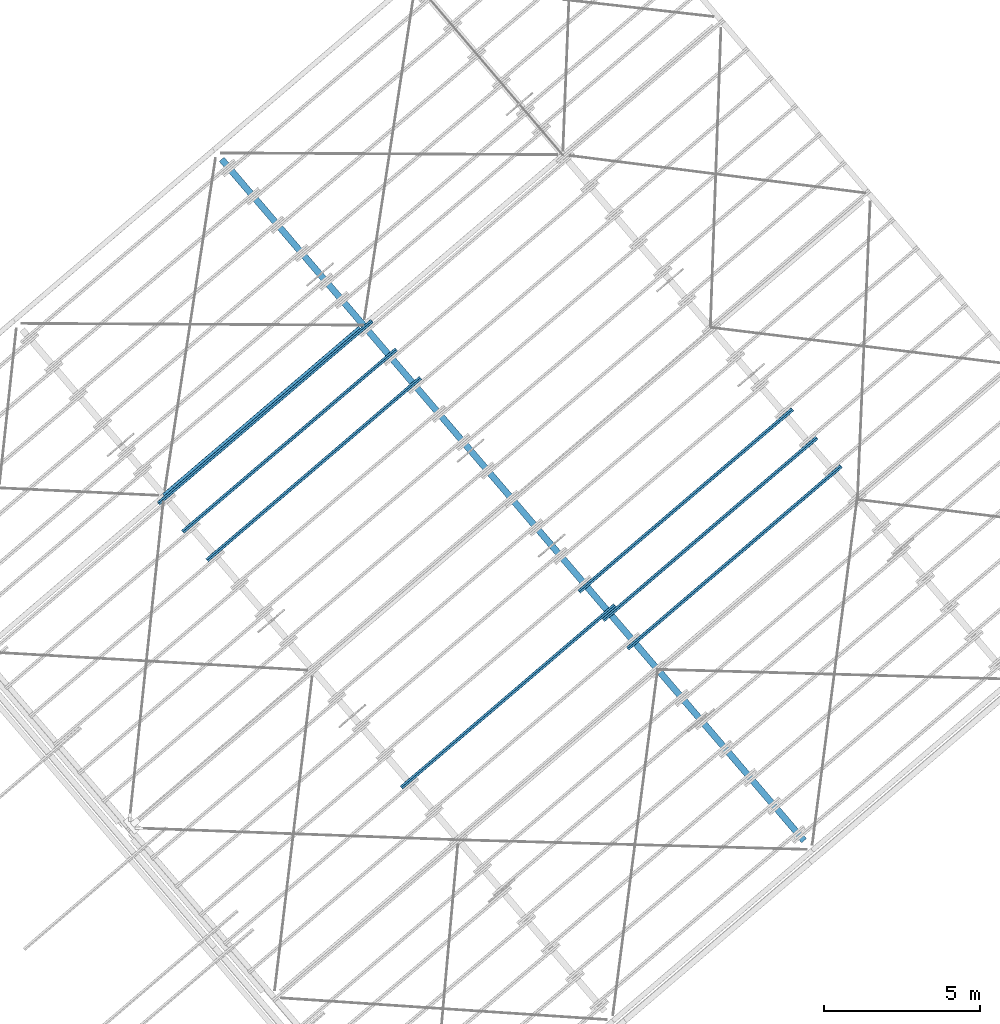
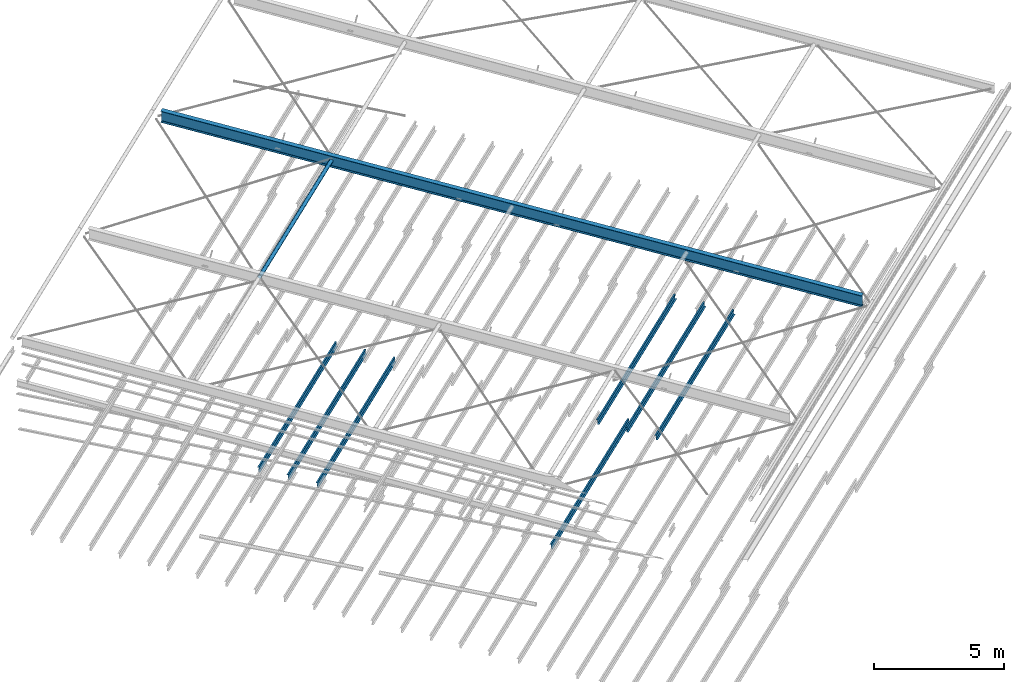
# One storey, part 12 of 25: 8 beams, 1 member, 2 elements without a shape of their own.
"""IFC2X3 building model written with IfcOpenShell, lengths in millimetres."""

from ifc_helpers import new_model, entity, si_unit, converted_unit, derived_unit, direction, frame, frame_2d, origin, origin_2d, origin_2d_with_axis, place, context, subcontext, project, spatial, polyline, circle_curve, parameter, trimmed, segment, composite_curve, hollow_circle, i_section, outline, extrude, clip, halfspace, material, type_object, element, aggregate, save


model = new_model("IFC2X3")

# Units and contexts
model_context = context("Model", 3, precision=0.01, world=origin(), true_north=direction((6.123031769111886e-17, 1.0)))
body_context = subcontext(model_context, "Body", "Model", "MODEL_VIEW")
ifc_project = project(units=[si_unit("LENGTHUNIT", "METRE", prefix="MILLI"), si_unit("AREAUNIT", "SQUARE_METRE"), si_unit("VOLUMEUNIT", "CUBIC_METRE"), converted_unit("PLANEANGLEUNIT", "DEGREE", entity("IfcRatioMeasure", 0.017453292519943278), si_unit("PLANEANGLEUNIT", "RADIAN"), dimensions=[0, 0, 0, 0, 0, 0, 0]), si_unit("MASSUNIT", "GRAM", prefix="KILO"), derived_unit("MASSDENSITYUNIT", [(si_unit("MASSUNIT", "GRAM", prefix="KILO"), 1), (si_unit("LENGTHUNIT", "METRE"), -3)]), derived_unit("MOMENTOFINERTIAUNIT", [(si_unit("LENGTHUNIT", "METRE"), 4)]), si_unit("TIMEUNIT", "SECOND"), si_unit("FREQUENCYUNIT", "HERTZ"), si_unit("THERMODYNAMICTEMPERATUREUNIT", "DEGREE_CELSIUS"), derived_unit("THERMALTRANSMITTANCEUNIT", [(si_unit("MASSUNIT", "GRAM", prefix="KILO"), 1), (si_unit("THERMODYNAMICTEMPERATUREUNIT", "KELVIN"), -1), (si_unit("TIMEUNIT", "SECOND"), -3)]), derived_unit("VOLUMETRICFLOWRATEUNIT", [(si_unit("LENGTHUNIT", "METRE"), 3), (si_unit("TIMEUNIT", "SECOND"), -1)]), derived_unit("MASSFLOWRATEUNIT", [(si_unit("MASSUNIT", "GRAM", prefix="KILO"), 1), (si_unit("TIMEUNIT", "SECOND"), -1)]), derived_unit("ROTATIONALFREQUENCYUNIT", [(si_unit("TIMEUNIT", "SECOND"), -1)]), si_unit("ELECTRICCURRENTUNIT", "AMPERE"), si_unit("ELECTRICVOLTAGEUNIT", "VOLT"), si_unit("POWERUNIT", "WATT"), si_unit("FORCEUNIT", "NEWTON", prefix="KILO"), si_unit("ILLUMINANCEUNIT", "LUX"), si_unit("LUMINOUSFLUXUNIT", "LUMEN"), si_unit("LUMINOUSINTENSITYUNIT", "CANDELA"), derived_unit("USERDEFINED", [(si_unit("MASSUNIT", "GRAM", prefix="KILO"), -1), (si_unit("LENGTHUNIT", "METRE"), -2), (si_unit("TIMEUNIT", "SECOND"), 3), (si_unit("LUMINOUSFLUXUNIT", "LUMEN"), 1)]), derived_unit("SOUNDPOWERUNIT", [(si_unit("MASSUNIT", "GRAM", prefix="KILO"), 1), (si_unit("LENGTHUNIT", "METRE"), 2), (si_unit("TIMEUNIT", "SECOND"), -3)]), derived_unit("LINEARVELOCITYUNIT", [(si_unit("LENGTHUNIT", "METRE"), 1), (si_unit("TIMEUNIT", "SECOND"), -1)]), si_unit("PRESSUREUNIT", "PASCAL"), derived_unit("USERDEFINED", [(si_unit("LENGTHUNIT", "METRE"), -2), (si_unit("MASSUNIT", "GRAM", prefix="KILO"), 1), (si_unit("TIMEUNIT", "SECOND"), -2)]), derived_unit("LINEARFORCEUNIT", [(si_unit("MASSUNIT", "GRAM", prefix="KILO"), 1), (si_unit("LENGTHUNIT", "METRE"), 1), (si_unit("TIMEUNIT", "SECOND"), -2), (si_unit("LENGTHUNIT", "METRE"), -1)]), derived_unit("PLANARFORCEUNIT", [(si_unit("MASSUNIT", "GRAM", prefix="KILO"), 1), (si_unit("LENGTHUNIT", "METRE"), 1), (si_unit("TIMEUNIT", "SECOND"), -2), (si_unit("LENGTHUNIT", "METRE"), -2)])], contexts=[model_context])

# Site, building, storey
site_placement = place(None, frame((962.4174930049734, -6014.433753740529, 0.0), z_axis=(0.0, 0.0, 1.0), x_axis=(0.7601792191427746, 0.649713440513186, 0.0)))
site = spatial("IfcSite", under=ifc_project, at=site_placement, Name="Default", CompositionType="ELEMENT")
building_placement = place(site_placement, origin())
building = spatial("IfcBuilding", under=site, at=building_placement, CompositionType="ELEMENT")
storey_placement = place(building_placement, frame((0.0, 0.0, 9200.0)))
storey = spatial("IfcBuildingStorey", under=building, at=storey_placement, Name="TOP OF CEILING", CompositionType="ELEMENT", Elevation=9200.000000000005)

# Beam
ifc_material_1 = material(Name="Metal - Steel - 300 MPa")
beam_type_1 = type_object("IfcBeamType", Name="ADSK_AU_CHS-Circular Hollow Sections (AS 1163_C350):168.3x6.4CHS", PredefinedType="NOTDEFINED")
beam_1_placement = place(storey_placement, frame((170738.96020471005, -3867.5905821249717, 3583.7999999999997), z_axis=(0.0, 0.0, 1.0), x_axis=(-1.0, 0.0, 0.0)))
element("IfcBeam", 1, at=beam_1_placement, inside=storey, type_object=beam_type_1, material=ifc_material_1, Name="ADSK_AU_CHS-Circular Hollow Sections (AS 1163_C350):168.3x6.4CHS", ObjectType="ADSK_AU_CHS-Circular Hollow Sections (AS 1163_C350):168.3x6.4CHS", context=body_context, shape_type="SweptSolid", body=[
    extrude(hollow_circle(Radius=84.15000000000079, WallThickness=6.4000000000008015, at=origin_2d_with_axis()), frame((134.30000000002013, 0.0, -84.15000000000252), z_axis=(1.0, 0.0, 0.0), x_axis=(0.0, 1.0, 0.0)), (0.0, 0.0, 1.0), 8265.7),
])

# Assembly, beams
assembly_1_placement = place(storey_placement, origin())
assembly_1 = element("IfcElementAssembly", 2, at=assembly_1_placement, inside=storey, Name="Structural Beam System:Structural Beam System 1", ObjectType="Structural Beam System:Structural Beam System 1", AssemblyPlace="NOTDEFINED", PredefinedType="BEAM_GRID")
ifc_material_2 = material(Name="Metal - Steel - 345 MPa")
beam_type_2 = type_object("IfcBeamType", Name="ADSK_AU_Light Gauge-Zeds:Z20015", PredefinedType="NOTDEFINED")
beam_2_placement = place(building_placement, frame((171038.96020471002, -3938.4404572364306, 3914.6058039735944), z_axis=(0.0, 0.0, 1.0), x_axis=(-1.0, 0.0, 0.0)))
beam_2 = element("IfcBeam", 3, at=beam_2_placement, type_object=beam_type_2, material=ifc_material_2, Name="ADSK_AU_Light Gauge-Zeds:Z20015", ObjectType="ADSK_AU_Light Gauge-Zeds:Z20015", context=body_context, shape_type="SweptSolid", body=[
    extrude(outline(composite_curve([segment(polyline([(100.0, 1.0), (100.0, -69.0)]), True, "CONTINUOUS"), segment(trimmed(circle_curve(frame_2d((98.0, -69.0), x_axis=(0.0, -1.0)), 2.000000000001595), [parameter(0.0)], [parameter(89.99999999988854)], True, "PARAMETER"), False, "CONTINUOUS"), segment(polyline([(98.0, -71.0), (81.49999999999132, -71.0)]), True, "CONTINUOUS"), segment(polyline([(81.49999999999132, -71.0), (81.49999999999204, -72.50000000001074)]), True, "CONTINUOUS"), segment(polyline([(81.4999999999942, -72.5000000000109), (98.0, -72.50000000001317)]), True, "CONTINUOUS"), segment(trimmed(circle_curve(frame_2d((98.0, -69.0), x_axis=(1.0, 0.0)), 3.500000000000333), [parameter(270.0000000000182)], [parameter(0.0)], True, "PARAMETER"), True, "CONTINUOUS"), segment(polyline([(101.49999999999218, -69.0), (101.5000000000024, 1.0)]), True, "CONTINUOUS"), segment(trimmed(circle_curve(frame_2d((98.0, 1.0), x_axis=(0.0, 1.0)), 3.500000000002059), [parameter(270.0000000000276)], [parameter(0.0)], True, "PARAMETER"), True, "CONTINUOUS"), segment(polyline([(98.0, 4.499999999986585), (-98.0, 4.500000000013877)]), True, "CONTINUOUS"), segment(trimmed(circle_curve(frame_2d((-98.0, 6.500000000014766), x_axis=(-1.0, 0.0)), 2.0000000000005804), [parameter(0.0)], [parameter(89.99999999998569)], True, "PARAMETER"), False, "CONTINUOUS"), segment(polyline([(-100.0, 6.500000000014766), (-100.0, 64.0)]), True, "CONTINUOUS"), segment(trimmed(circle_curve(frame_2d((-98.0, 64.0), x_axis=(0.0, 1.0)), 2.000000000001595), [parameter(0.0)], [parameter(89.99999999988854)], True, "PARAMETER"), False, "CONTINUOUS"), segment(polyline([(-98.0, 66.0), (-81.49999999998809, 66.0)]), True, "CONTINUOUS"), segment(polyline([(-81.49999999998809, 66.0), (-81.4999999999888, 67.50000000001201)]), True, "CONTINUOUS"), segment(polyline([(-81.49999999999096, 67.50000000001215), (-98.0, 67.50000000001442)]), True, "CONTINUOUS"), segment(trimmed(circle_curve(frame_2d((-98.0, 64.0), x_axis=(-1.0, 0.0)), 3.5000000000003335), [parameter(270.0000000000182)], [parameter(0.0)], True, "PARAMETER"), True, "CONTINUOUS"), segment(polyline([(-101.49999999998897, 64.0), (-101.49999999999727, 6.500000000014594)]), True, "CONTINUOUS"), segment(trimmed(circle_curve(frame_2d((-98.0, 6.500000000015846), x_axis=(0.0, -1.0)), 3.5000000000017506), [parameter(270.0000000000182)], [parameter(0.0)], True, "PARAMETER"), True, "CONTINUOUS"), segment(polyline([(-98.0, 3.0), (98.0, 3.0)]), True, "CONTINUOUS"), segment(trimmed(circle_curve(frame_2d((98.0, 1.0), x_axis=(1.0, 0.0)), 2.0000000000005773), [parameter(0.0)], [parameter(89.99999999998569)], True, "PARAMETER"), False, "CONTINUOUS")], self_intersect=False)), frame((0.20000000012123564, -2.591243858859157, -101.56665523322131), z_axis=(-1.0, 0.0, 0.0), x_axis=(0.0, -0.06975647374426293, -0.9975640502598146)), (0.0, 0.0, -1.0), 9000.000000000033),
])
beam_3_placement = place(building_placement, frame((171038.96020471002, -5135.51731754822, 3830.8980354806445), z_axis=(0.0, 0.0, 1.0), x_axis=(-1.0, 0.0, 0.0)))
beam_3 = element("IfcBeam", 4, at=beam_3_placement, type_object=beam_type_2, material=ifc_material_2, Name="ADSK_AU_Light Gauge-Zeds:Z20015", ObjectType="ADSK_AU_Light Gauge-Zeds:Z20015", context=body_context, shape_type="SweptSolid", body=[
    extrude(outline(composite_curve([segment(polyline([(100.0, 1.0), (100.0, -69.0)]), True, "CONTINUOUS"), segment(trimmed(circle_curve(frame_2d((98.0, -69.0), x_axis=(0.0, -1.0)), 2.000000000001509), [parameter(0.0)], [parameter(89.99999999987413)], True, "PARAMETER"), False, "CONTINUOUS"), segment(polyline([(98.0, -71.0), (81.49999999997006, -71.0)]), True, "CONTINUOUS"), segment(polyline([(81.49999999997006, -71.0), (81.49999999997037, -72.50000000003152)]), True, "CONTINUOUS"), segment(polyline([(81.49999999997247, -72.50000000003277), (98.0, -72.50000000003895)]), True, "CONTINUOUS"), segment(trimmed(circle_curve(frame_2d((98.0, -69.0), x_axis=(1.0, 0.0)), 3.5000000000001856), [parameter(270.0000000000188)], [parameter(0.0)], True, "PARAMETER"), True, "CONTINUOUS"), segment(polyline([(101.49999999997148, -69.0), (101.50000000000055, 1.0)]), True, "CONTINUOUS"), segment(trimmed(circle_curve(frame_2d((98.0, 1.0), x_axis=(0.0, 1.0)), 3.5000000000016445), [parameter(269.9999999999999)], [parameter(0.0)], True, "PARAMETER"), True, "CONTINUOUS"), segment(polyline([(98.0, 4.499999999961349), (-98.0, 4.500000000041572)]), True, "CONTINUOUS"), segment(trimmed(circle_curve(frame_2d((-98.0, 6.500000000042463), x_axis=(-1.0, 0.0)), 2.000000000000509), [parameter(0.0)], [parameter(89.99999999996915)], True, "PARAMETER"), False, "CONTINUOUS"), segment(polyline([(-100.0, 6.500000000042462), (-100.0, 64.0)]), True, "CONTINUOUS"), segment(trimmed(circle_curve(frame_2d((-98.0, 64.0), x_axis=(0.0, 1.0)), 2.000000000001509), [parameter(0.0)], [parameter(89.99999999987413)], True, "PARAMETER"), False, "CONTINUOUS"), segment(polyline([(-98.0, 66.0), (-81.49999999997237, 66.0)]), True, "CONTINUOUS"), segment(polyline([(-81.49999999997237, 66.0), (-81.4999999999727, 67.5000000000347)]), True, "CONTINUOUS"), segment(polyline([(-81.49999999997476, 67.50000000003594), (-98.0, 67.50000000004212)]), True, "CONTINUOUS"), segment(trimmed(circle_curve(frame_2d((-98.0, 64.0), x_axis=(-1.0, 0.0)), 3.5000000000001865), [parameter(270.0000000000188)], [parameter(0.0)], True, "PARAMETER"), True, "CONTINUOUS"), segment(polyline([(-101.49999999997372, 64.0), (-101.4999999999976, 6.500000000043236)]), True, "CONTINUOUS"), segment(trimmed(circle_curve(frame_2d((-98.0, 6.500000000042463), x_axis=(0.0, -1.0)), 3.500000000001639), [parameter(269.9999999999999)], [parameter(0.0)], True, "PARAMETER"), True, "CONTINUOUS"), segment(polyline([(-98.0, 3.0), (98.0, 3.0)]), True, "CONTINUOUS"), segment(trimmed(circle_curve(frame_2d((98.0, 1.0), x_axis=(1.0, 0.0)), 2.000000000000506), [parameter(0.0)], [parameter(89.99999999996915)], True, "PARAMETER"), False, "CONTINUOUS")], self_intersect=False)), frame((0.20000000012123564, -2.5912438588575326, -101.56665523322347), z_axis=(-1.0, 0.0, 0.0), x_axis=(0.0, -0.06975647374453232, -0.9975640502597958)), (0.0, 0.0, -1.0), 9000.000000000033),
])
beam_4_placement = place(building_placement, frame((171038.96020471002, -6332.594177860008, 3747.1902669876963), z_axis=(0.0, 0.0, 1.0), x_axis=(-1.0, 0.0, 0.0)))
beam_4 = element("IfcBeam", 5, at=beam_4_placement, type_object=beam_type_2, material=ifc_material_2, Name="ADSK_AU_Light Gauge-Zeds:Z20015", ObjectType="ADSK_AU_Light Gauge-Zeds:Z20015", context=body_context, shape_type="SweptSolid", body=[
    extrude(outline(composite_curve([segment(polyline([(100.0, 1.0), (100.0, -69.0)]), True, "CONTINUOUS"), segment(trimmed(circle_curve(frame_2d((98.0, -69.0), x_axis=(0.0, -1.0)), 2.000000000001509), [parameter(0.0)], [parameter(89.99999999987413)], True, "PARAMETER"), False, "CONTINUOUS"), segment(polyline([(98.0, -71.0), (81.49999999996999, -71.0)]), True, "CONTINUOUS"), segment(polyline([(81.49999999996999, -71.0), (81.49999999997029, -72.5000000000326)]), True, "CONTINUOUS"), segment(polyline([(81.4999999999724, -72.50000000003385), (98.0, -72.50000000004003)]), True, "CONTINUOUS"), segment(trimmed(circle_curve(frame_2d((98.0, -69.0), x_axis=(1.0, 0.0)), 3.5000000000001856), [parameter(270.0000000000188)], [parameter(0.0)], True, "PARAMETER"), True, "CONTINUOUS"), segment(polyline([(101.49999999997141, -69.0), (101.50000000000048, 1.0)]), True, "CONTINUOUS"), segment(trimmed(circle_curve(frame_2d((98.0, 1.0), x_axis=(0.0, 1.0)), 3.5000000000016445), [parameter(269.9999999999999)], [parameter(0.0)], True, "PARAMETER"), True, "CONTINUOUS"), segment(polyline([(98.0, 4.499999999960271), (-98.0, 4.500000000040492)]), True, "CONTINUOUS"), segment(trimmed(circle_curve(frame_2d((-98.0, 6.500000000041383), x_axis=(-1.0, 0.0)), 2.000000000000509), [parameter(0.0)], [parameter(89.99999999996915)], True, "PARAMETER"), False, "CONTINUOUS"), segment(polyline([(-100.0, 6.500000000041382), (-100.0, 64.0)]), True, "CONTINUOUS"), segment(trimmed(circle_curve(frame_2d((-98.0, 64.0), x_axis=(0.0, 1.0)), 2.000000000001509), [parameter(0.0)], [parameter(89.99999999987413)], True, "PARAMETER"), False, "CONTINUOUS"), segment(polyline([(-98.0, 66.0), (-81.49999999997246, 66.0)]), True, "CONTINUOUS"), segment(polyline([(-81.49999999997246, 66.0), (-81.49999999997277, 67.50000000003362)]), True, "CONTINUOUS"), segment(polyline([(-81.49999999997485, 67.50000000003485), (-98.0, 67.50000000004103)]), True, "CONTINUOUS"), segment(trimmed(circle_curve(frame_2d((-98.0, 64.0), x_axis=(-1.0, 0.0)), 3.5000000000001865), [parameter(270.0000000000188)], [parameter(0.0)], True, "PARAMETER"), True, "CONTINUOUS"), segment(polyline([(-101.4999999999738, 64.0), (-101.49999999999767, 6.500000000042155)]), True, "CONTINUOUS"), segment(trimmed(circle_curve(frame_2d((-98.0, 6.500000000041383), x_axis=(0.0, -1.0)), 3.500000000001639), [parameter(269.9999999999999)], [parameter(0.0)], True, "PARAMETER"), True, "CONTINUOUS"), segment(polyline([(-98.0, 3.0), (98.0, 3.0)]), True, "CONTINUOUS"), segment(trimmed(circle_curve(frame_2d((98.0, 1.0), x_axis=(1.0, 0.0)), 2.000000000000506), [parameter(0.0)], [parameter(89.99999999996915)], True, "PARAMETER"), False, "CONTINUOUS")], self_intersect=False)), frame((0.20000000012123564, -2.5912438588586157, -101.56665523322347), z_axis=(-1.0, 0.0, 0.0), x_axis=(0.0, -0.06975647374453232, -0.9975640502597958)), (0.0, 0.0, -1.0), 9000.000000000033),
])
beam_5_placement = place(building_placement, frame((171038.96020471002, -15909.209060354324, 3077.5281190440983), z_axis=(0.0, 0.0, 1.0), x_axis=(-1.0, 0.0, 0.0)))
beam_5 = element("IfcBeam", 6, at=beam_5_placement, type_object=beam_type_2, material=ifc_material_2, Name="ADSK_AU_Light Gauge-Zeds:Z20015", ObjectType="ADSK_AU_Light Gauge-Zeds:Z20015", context=body_context, shape_type="SweptSolid", body=[
    extrude(outline(composite_curve([segment(polyline([(100.0, 1.0), (100.0, -69.0)]), True, "CONTINUOUS"), segment(trimmed(circle_curve(frame_2d((98.0, -69.0), x_axis=(0.0, -1.0)), 2.000000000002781), [parameter(0.0)], [parameter(89.99999999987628)], True, "PARAMETER"), False, "CONTINUOUS"), segment(polyline([(98.0, -71.0), (81.4999999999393, -71.0)]), True, "CONTINUOUS"), segment(polyline([(81.4999999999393, -71.0), (81.49999999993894, -72.50000000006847)]), True, "CONTINUOUS"), segment(polyline([(81.49999999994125, -72.50000000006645), (98.0, -72.50000000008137)]), True, "CONTINUOUS"), segment(trimmed(circle_curve(frame_2d((98.0, -69.0), x_axis=(1.0, 0.0)), 3.5000000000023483), [parameter(270.00000000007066)], [parameter(0.0)], True, "PARAMETER"), True, "CONTINUOUS"), segment(polyline([(101.49999999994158, -69.0), (101.50000000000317, 1.0)]), True, "CONTINUOUS"), segment(trimmed(circle_curve(frame_2d((98.0, 1.0), x_axis=(0.0, 1.0)), 3.500000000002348), [parameter(270.00000000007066)], [parameter(0.0)], True, "PARAMETER"), True, "CONTINUOUS"), segment(polyline([(98.0, 4.499999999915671), (-98.0, 4.500000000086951)]), True, "CONTINUOUS"), segment(trimmed(circle_curve(frame_2d((-98.0, 6.500000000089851), x_axis=(-1.0, 0.0)), 2.0000000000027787), [parameter(0.0)], [parameter(89.99999999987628)], True, "PARAMETER"), False, "CONTINUOUS"), segment(polyline([(-100.0, 6.500000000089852), (-100.0, 64.0)]), True, "CONTINUOUS"), segment(trimmed(circle_curve(frame_2d((-98.0, 64.0), x_axis=(0.0, 1.0)), 2.000000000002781), [parameter(0.0)], [parameter(89.99999999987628)], True, "PARAMETER"), False, "CONTINUOUS"), segment(polyline([(-98.0, 66.0), (-81.49999999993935, 66.0)]), True, "CONTINUOUS"), segment(polyline([(-81.49999999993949, 66.0), (-81.49999999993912, 67.50000000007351)]), True, "CONTINUOUS"), segment(polyline([(-81.49999999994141, 67.50000000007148), (-98.0, 67.50000000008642)]), True, "CONTINUOUS"), segment(trimmed(circle_curve(frame_2d((-98.0, 64.0), x_axis=(-1.0, 0.0)), 3.500000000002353), [parameter(270.00000000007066)], [parameter(0.0)], True, "PARAMETER"), True, "CONTINUOUS"), segment(polyline([(-101.49999999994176, 64.0), (-101.49999999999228, 6.500000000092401)]), True, "CONTINUOUS"), segment(trimmed(circle_curve(frame_2d((-98.0, 6.500000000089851), x_axis=(0.0, -1.0)), 3.5000000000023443), [parameter(270.00000000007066)], [parameter(0.0)], True, "PARAMETER"), True, "CONTINUOUS"), segment(polyline([(-98.0, 3.0), (98.0, 3.0)]), True, "CONTINUOUS"), segment(trimmed(circle_curve(frame_2d((98.0, 1.0), x_axis=(1.0, 0.0)), 2.000000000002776), [parameter(0.0)], [parameter(89.99999999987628)], True, "PARAMETER"), False, "CONTINUOUS")], self_intersect=False)), frame((0.20000000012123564, -2.59124385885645, -101.56665523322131), z_axis=(-1.0, 0.0, 0.0), x_axis=(0.0, -0.06975647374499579, -0.9975640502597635)), (0.0, 0.0, -1.0), 9000.000000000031),
])
aggregate(assembly_1, [beam_2, beam_3, beam_4, beam_5])

assembly_2_placement = place(storey_placement, origin())
assembly_2 = element("IfcElementAssembly", 7, at=assembly_2_placement, inside=storey, Name="Structural Beam System:Structural Beam System 1", ObjectType="Structural Beam System:Structural Beam System 1", AssemblyPlace="NOTDEFINED", PredefinedType="BEAM_GRID")
beam_6_placement = place(building_placement, frame((179438.96020471, -14840.317238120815, 3152.2723164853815), z_axis=(0.0, 0.0, 1.0), x_axis=(-1.0, 0.0, 0.0)))
beam_6 = element("IfcBeam", 8, at=beam_6_placement, type_object=beam_type_2, material=ifc_material_2, Name="ADSK_AU_Light Gauge-Zeds:Z20015", ObjectType="ADSK_AU_Light Gauge-Zeds:Z20015", context=body_context, shape_type="SweptSolid", body=[
    extrude(outline(composite_curve([segment(polyline([(100.0, 1.0), (100.0, -69.0)]), True, "CONTINUOUS"), segment(trimmed(circle_curve(frame_2d((98.0, -69.0), x_axis=(0.0, -1.0)), 2.000000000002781), [parameter(0.0)], [parameter(89.99999999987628)], True, "PARAMETER"), False, "CONTINUOUS"), segment(polyline([(98.0, -71.0), (81.49999999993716, -71.0)]), True, "CONTINUOUS"), segment(polyline([(81.49999999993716, -71.0), (81.49999999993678, -72.50000000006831)]), True, "CONTINUOUS"), segment(polyline([(81.4999999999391, -72.50000000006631), (98.0, -72.50000000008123)]), True, "CONTINUOUS"), segment(trimmed(circle_curve(frame_2d((98.0, -69.0), x_axis=(1.0, 0.0)), 3.5000000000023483), [parameter(270.00000000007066)], [parameter(0.0)], True, "PARAMETER"), True, "CONTINUOUS"), segment(polyline([(101.49999999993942, -69.0), (101.50000000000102, 1.0)]), True, "CONTINUOUS"), segment(trimmed(circle_curve(frame_2d((98.0, 1.0), x_axis=(0.0, 1.0)), 3.500000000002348), [parameter(270.00000000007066)], [parameter(0.0)], True, "PARAMETER"), True, "CONTINUOUS"), segment(polyline([(98.0, 4.499999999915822), (-98.0, 4.500000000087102)]), True, "CONTINUOUS"), segment(trimmed(circle_curve(frame_2d((-98.0, 6.500000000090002), x_axis=(-1.0, 0.0)), 2.0000000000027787), [parameter(0.0)], [parameter(89.99999999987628)], True, "PARAMETER"), False, "CONTINUOUS"), segment(polyline([(-100.0, 6.500000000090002), (-100.0, 64.0)]), True, "CONTINUOUS"), segment(trimmed(circle_curve(frame_2d((-98.0, 64.0), x_axis=(0.0, 1.0)), 2.000000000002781), [parameter(0.0)], [parameter(89.99999999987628)], True, "PARAMETER"), False, "CONTINUOUS"), segment(polyline([(-98.0, 66.0), (-81.49999999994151, 66.0)]), True, "CONTINUOUS"), segment(polyline([(-81.49999999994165, 66.0), (-81.49999999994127, 67.50000000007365)]), True, "CONTINUOUS"), segment(polyline([(-81.49999999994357, 67.50000000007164), (-98.0, 67.50000000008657)]), True, "CONTINUOUS"), segment(trimmed(circle_curve(frame_2d((-98.0, 64.0), x_axis=(-1.0, 0.0)), 3.500000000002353), [parameter(270.00000000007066)], [parameter(0.0)], True, "PARAMETER"), True, "CONTINUOUS"), segment(polyline([(-101.49999999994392, 64.0), (-101.49999999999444, 6.500000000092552)]), True, "CONTINUOUS"), segment(trimmed(circle_curve(frame_2d((-98.0, 6.500000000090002), x_axis=(0.0, -1.0)), 3.5000000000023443), [parameter(270.00000000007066)], [parameter(0.0)], True, "PARAMETER"), True, "CONTINUOUS"), segment(polyline([(-98.0, 3.0), (98.0, 3.0)]), True, "CONTINUOUS"), segment(trimmed(circle_curve(frame_2d((98.0, 1.0), x_axis=(1.0, 0.0)), 2.000000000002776), [parameter(0.0)], [parameter(89.99999999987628)], True, "PARAMETER"), False, "CONTINUOUS")], self_intersect=False)), frame((0.0, -2.59124385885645, -101.56665523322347), z_axis=(-1.0, 0.0, 0.0), x_axis=(0.0, -0.06975647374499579, -0.9975640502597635)), (0.0, 0.0, -1.0), 9000.000000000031),
])
beam_7_placement = place(building_placement, frame((179438.96020471, -16037.394098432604, 3068.5645479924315), z_axis=(0.0, 0.0, 1.0), x_axis=(-1.0, 0.0, 0.0)))
beam_7 = element("IfcBeam", 9, at=beam_7_placement, type_object=beam_type_2, material=ifc_material_2, Name="ADSK_AU_Light Gauge-Zeds:Z20015", ObjectType="ADSK_AU_Light Gauge-Zeds:Z20015", context=body_context, shape_type="SweptSolid", body=[
    extrude(outline(composite_curve([segment(polyline([(100.0, 1.0), (100.0, -69.0)]), True, "CONTINUOUS"), segment(trimmed(circle_curve(frame_2d((98.0, -69.0), x_axis=(0.0, -1.0)), 2.000000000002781), [parameter(0.0)], [parameter(89.99999999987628)], True, "PARAMETER"), False, "CONTINUOUS"), segment(polyline([(98.0, -71.0), (81.49999999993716, -71.0)]), True, "CONTINUOUS"), segment(polyline([(81.49999999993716, -71.0), (81.49999999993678, -72.50000000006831)]), True, "CONTINUOUS"), segment(polyline([(81.4999999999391, -72.50000000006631), (98.0, -72.50000000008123)]), True, "CONTINUOUS"), segment(trimmed(circle_curve(frame_2d((98.0, -69.0), x_axis=(1.0, 0.0)), 3.5000000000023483), [parameter(270.00000000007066)], [parameter(0.0)], True, "PARAMETER"), True, "CONTINUOUS"), segment(polyline([(101.49999999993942, -69.0), (101.50000000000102, 1.0)]), True, "CONTINUOUS"), segment(trimmed(circle_curve(frame_2d((98.0, 1.0), x_axis=(0.0, 1.0)), 3.500000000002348), [parameter(270.00000000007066)], [parameter(0.0)], True, "PARAMETER"), True, "CONTINUOUS"), segment(polyline([(98.0, 4.499999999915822), (-98.0, 4.500000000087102)]), True, "CONTINUOUS"), segment(trimmed(circle_curve(frame_2d((-98.0, 6.500000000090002), x_axis=(-1.0, 0.0)), 2.0000000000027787), [parameter(0.0)], [parameter(89.99999999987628)], True, "PARAMETER"), False, "CONTINUOUS"), segment(polyline([(-100.0, 6.500000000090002), (-100.0, 64.0)]), True, "CONTINUOUS"), segment(trimmed(circle_curve(frame_2d((-98.0, 64.0), x_axis=(0.0, 1.0)), 2.000000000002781), [parameter(0.0)], [parameter(89.99999999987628)], True, "PARAMETER"), False, "CONTINUOUS"), segment(polyline([(-98.0, 66.0), (-81.49999999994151, 66.0)]), True, "CONTINUOUS"), segment(polyline([(-81.49999999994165, 66.0), (-81.49999999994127, 67.50000000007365)]), True, "CONTINUOUS"), segment(polyline([(-81.49999999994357, 67.50000000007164), (-98.0, 67.50000000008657)]), True, "CONTINUOUS"), segment(trimmed(circle_curve(frame_2d((-98.0, 64.0), x_axis=(-1.0, 0.0)), 3.500000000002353), [parameter(270.00000000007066)], [parameter(0.0)], True, "PARAMETER"), True, "CONTINUOUS"), segment(polyline([(-101.49999999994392, 64.0), (-101.49999999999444, 6.500000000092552)]), True, "CONTINUOUS"), segment(trimmed(circle_curve(frame_2d((-98.0, 6.500000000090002), x_axis=(0.0, -1.0)), 3.5000000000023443), [parameter(270.00000000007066)], [parameter(0.0)], True, "PARAMETER"), True, "CONTINUOUS"), segment(polyline([(-98.0, 3.0), (98.0, 3.0)]), True, "CONTINUOUS"), segment(trimmed(circle_curve(frame_2d((98.0, 1.0), x_axis=(1.0, 0.0)), 2.000000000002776), [parameter(0.0)], [parameter(89.99999999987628)], True, "PARAMETER"), False, "CONTINUOUS")], self_intersect=False)), frame((0.0, -2.59124385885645, -101.56665523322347), z_axis=(-1.0, 0.0, 0.0), x_axis=(0.0, -0.06975647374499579, -0.9975640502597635)), (0.0, 0.0, -1.0), 9000.000000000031),
])
beam_8_placement = place(building_placement, frame((179438.96020471, -17234.470958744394, 2984.8567794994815), z_axis=(0.0, 0.0, 1.0), x_axis=(-1.0, 0.0, 0.0)))
beam_8 = element("IfcBeam", 10, at=beam_8_placement, type_object=beam_type_2, material=ifc_material_2, Name="ADSK_AU_Light Gauge-Zeds:Z20015", ObjectType="ADSK_AU_Light Gauge-Zeds:Z20015", context=body_context, shape_type="SweptSolid", body=[
    extrude(outline(composite_curve([segment(polyline([(100.0, 1.0), (100.0, -69.0)]), True, "CONTINUOUS"), segment(trimmed(circle_curve(frame_2d((98.0, -69.0), x_axis=(0.0, -1.0)), 2.000000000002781), [parameter(0.0)], [parameter(89.99999999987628)], True, "PARAMETER"), False, "CONTINUOUS"), segment(polyline([(98.0, -71.0), (81.49999999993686, -71.0)]), True, "CONTINUOUS"), segment(polyline([(81.49999999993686, -71.0), (81.49999999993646, -72.50000000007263)]), True, "CONTINUOUS"), segment(polyline([(81.49999999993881, -72.50000000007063), (98.0, -72.50000000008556)]), True, "CONTINUOUS"), segment(trimmed(circle_curve(frame_2d((98.0, -69.0), x_axis=(1.0, 0.0)), 3.5000000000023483), [parameter(270.00000000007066)], [parameter(0.0)], True, "PARAMETER"), True, "CONTINUOUS"), segment(polyline([(101.49999999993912, -69.0), (101.50000000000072, 1.0)]), True, "CONTINUOUS"), segment(trimmed(circle_curve(frame_2d((98.0, 1.0), x_axis=(0.0, 1.0)), 3.500000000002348), [parameter(270.00000000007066)], [parameter(0.0)], True, "PARAMETER"), True, "CONTINUOUS"), segment(polyline([(98.0, 4.4999999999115), (-98.0, 4.500000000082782)]), True, "CONTINUOUS"), segment(trimmed(circle_curve(frame_2d((-98.0, 6.500000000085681), x_axis=(-1.0, 0.0)), 2.0000000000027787), [parameter(0.0)], [parameter(89.99999999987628)], True, "PARAMETER"), False, "CONTINUOUS"), segment(polyline([(-100.0, 6.500000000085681), (-100.0, 64.0)]), True, "CONTINUOUS"), segment(trimmed(circle_curve(frame_2d((-98.0, 64.0), x_axis=(0.0, 1.0)), 2.000000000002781), [parameter(0.0)], [parameter(89.99999999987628)], True, "PARAMETER"), False, "CONTINUOUS"), segment(polyline([(-98.0, 66.0), (-81.4999999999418, 66.0)]), True, "CONTINUOUS"), segment(polyline([(-81.49999999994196, 66.0), (-81.49999999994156, 67.50000000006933)]), True, "CONTINUOUS"), segment(polyline([(-81.49999999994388, 67.50000000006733), (-98.0, 67.50000000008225)]), True, "CONTINUOUS"), segment(trimmed(circle_curve(frame_2d((-98.0, 64.0), x_axis=(-1.0, 0.0)), 3.500000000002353), [parameter(270.00000000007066)], [parameter(0.0)], True, "PARAMETER"), True, "CONTINUOUS"), segment(polyline([(-101.49999999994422, 64.0), (-101.49999999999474, 6.500000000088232)]), True, "CONTINUOUS"), segment(trimmed(circle_curve(frame_2d((-98.0, 6.500000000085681), x_axis=(0.0, -1.0)), 3.5000000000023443), [parameter(270.00000000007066)], [parameter(0.0)], True, "PARAMETER"), True, "CONTINUOUS"), segment(polyline([(-98.0, 3.0), (98.0, 3.0)]), True, "CONTINUOUS"), segment(trimmed(circle_curve(frame_2d((98.0, 1.0), x_axis=(1.0, 0.0)), 2.000000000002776), [parameter(0.0)], [parameter(89.99999999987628)], True, "PARAMETER"), False, "CONTINUOUS")], self_intersect=False)), frame((0.0, -2.5912438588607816, -101.56665523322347), z_axis=(-1.0, 0.0, 0.0), x_axis=(0.0, -0.06975647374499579, -0.9975640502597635)), (0.0, 0.0, -1.0), 9000.000000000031),
])
aggregate(assembly_2, [beam_6, beam_7, beam_8])

# Member
member_type = type_object("IfcMemberType", Name="ADSK_AU_UB-Universal Beams (AS 3679_1):530UB92.4", PredefinedType="MEMBER", material=ifc_material_1)
member_placement = place(storey_placement, frame((170738.96020471, -26769.287973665, 1830.4782777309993), z_axis=(0.0, -0.9975640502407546, -0.0697564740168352), x_axis=(1.0, 0.0, 0.0)))
element("IfcMember", 11, at=member_placement, inside=storey, type_object=member_type, material=ifc_material_1, Name="ADSK_AU_UB-Universal Beams (AS 3679_1):530UB92.4", ObjectType="530UB92.4", context=model_context, shape_type="Clipping", body=[
    clip(clip(extrude(i_section(OverallWidth=209.0, OverallDepth=533.0, WebThickness=10.2, FlangeThickness=15.6, FilletRadius=14.0, at=origin_2d()), origin(), (0.0, 0.0, -1.0), 30950.803595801), halfspace(frame((-170738.96020471, -11086.539330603, -416.517617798), z_axis=(0.0, -0.069756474, -0.99756405), x_axis=(-1.0, 0.0, 0.0)), True)), halfspace(frame((-170738.96020471, -13089.003404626, -29053.088031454), z_axis=(0.0, 0.069756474, 0.99756405), x_axis=(1.0, 0.0, 0.0)), True)),
])

save(model, "model.ifc")
